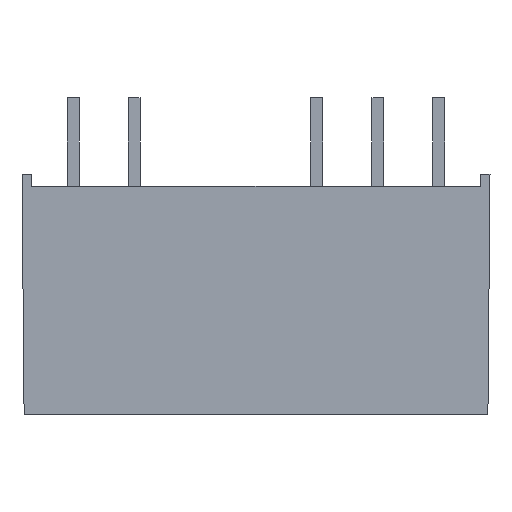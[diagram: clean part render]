
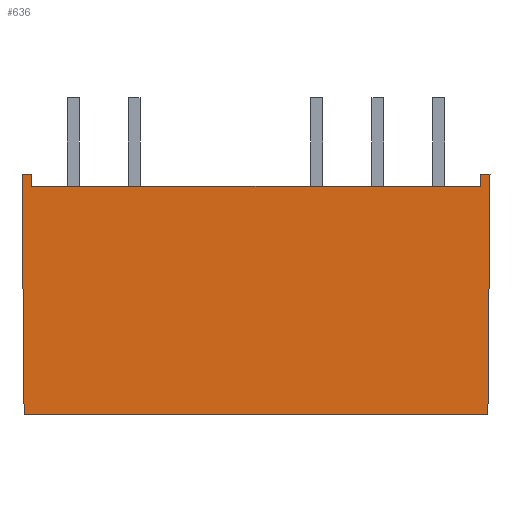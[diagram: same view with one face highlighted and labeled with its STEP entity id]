
A CAD part, front view. The second image highlights one B-rep face of the part: STEP entity #636.
In plain terms, the highlighted planar face has unit normal (0, -1, -0.009).
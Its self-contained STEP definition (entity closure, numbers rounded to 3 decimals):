
#50=FACE_OUTER_BOUND('',#90,.T.);
#90=EDGE_LOOP('',(#543,#544,#545,#546,#547,#548,#549,#550));
#158=LINE('',#968,#242);
#161=LINE('',#974,#245);
#162=LINE('',#977,#246);
#167=LINE('',#986,#251);
#168=LINE('',#989,#252);
#171=LINE('',#995,#255);
#172=LINE('',#997,#256);
#173=LINE('',#998,#257);
#242=VECTOR('',#795,18.7);
#245=VECTOR('',#800,0.5);
#246=VECTOR('',#803,0.5);
#251=VECTOR('',#810,0.4);
#252=VECTOR('',#813,0.4);
#255=VECTOR('',#818,10.001);
#256=VECTOR('',#819,19.325);
#257=VECTOR('',#820,10.001);
#303=VERTEX_POINT('',#961);
#306=VERTEX_POINT('',#966);
#308=VERTEX_POINT('',#972);
#309=VERTEX_POINT('',#976);
#312=VERTEX_POINT('',#984);
#313=VERTEX_POINT('',#988);
#315=VERTEX_POINT('',#994);
#316=VERTEX_POINT('',#996);
#382=EDGE_CURVE('',#303,#306,#158,.T.);
#385=EDGE_CURVE('',#306,#308,#161,.T.);
#386=EDGE_CURVE('',#309,#303,#162,.T.);
#391=EDGE_CURVE('',#308,#312,#167,.T.);
#392=EDGE_CURVE('',#313,#309,#168,.T.);
#395=EDGE_CURVE('',#315,#312,#171,.F.);
#396=EDGE_CURVE('',#315,#316,#172,.F.);
#397=EDGE_CURVE('',#316,#313,#173,.F.);
#543=ORIENTED_EDGE('',*,*,#386,.T.);
#544=ORIENTED_EDGE('',*,*,#382,.T.);
#545=ORIENTED_EDGE('',*,*,#385,.T.);
#546=ORIENTED_EDGE('',*,*,#391,.T.);
#547=ORIENTED_EDGE('',*,*,#395,.F.);
#548=ORIENTED_EDGE('',*,*,#396,.T.);
#549=ORIENTED_EDGE('',*,*,#397,.T.);
#550=ORIENTED_EDGE('',*,*,#392,.T.);
#601=PLANE('',#673);
#636=ADVANCED_FACE('',(#50),#601,.T.);
#673=AXIS2_PLACEMENT_3D('',#993,#816,#817);
#795=DIRECTION('',(-1.,0.,0.));
#800=DIRECTION('',(0.,-0.009,1.));
#803=DIRECTION('',(0.,0.009,-1.));
#810=DIRECTION('',(-1.,0.,0.));
#813=DIRECTION('',(-1.,0.,0.));
#816=DIRECTION('center_axis',(0.,-1.,
-0.009));
#817=DIRECTION('ref_axis',(0.,0.009,-1.));
#818=DIRECTION('',(0.009,0.009,-1.));
#819=DIRECTION('',(-1.,0.,0.));
#820=DIRECTION('',(-0.009,0.009,-1.));
#961=CARTESIAN_POINT('',(9.35,-3.596,9.5));
#966=CARTESIAN_POINT('',(-9.35,-3.596,9.5));
#968=CARTESIAN_POINT('',(4.875,-3.596,9.5));
#972=CARTESIAN_POINT('',(-9.35,-3.6,10.));
#974=CARTESIAN_POINT('',(-9.35,-3.556,4.969));
#976=CARTESIAN_POINT('',(9.35,-3.6,10.));
#977=CARTESIAN_POINT('',(9.35,-3.556,5.));
#984=CARTESIAN_POINT('',(-9.75,-3.6,10.));
#986=CARTESIAN_POINT('',(-9.75,-3.6,10.));
#988=CARTESIAN_POINT('',(9.75,-3.6,10.));
#989=CARTESIAN_POINT('',(-9.75,-3.6,10.));
#993=CARTESIAN_POINT('Origin',(9.75,-3.513,0.));
#994=CARTESIAN_POINT('',(-9.663,-3.513,0.));
#995=CARTESIAN_POINT('',(-9.662,-3.512,-0.084));
#996=CARTESIAN_POINT('',(9.663,-3.513,0.));
#997=CARTESIAN_POINT('',(4.875,-3.513,0.));
#998=CARTESIAN_POINT('',(9.662,-3.512,-0.03));
